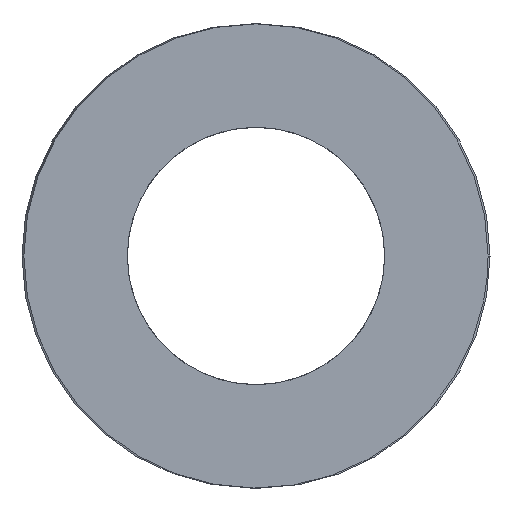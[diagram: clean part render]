
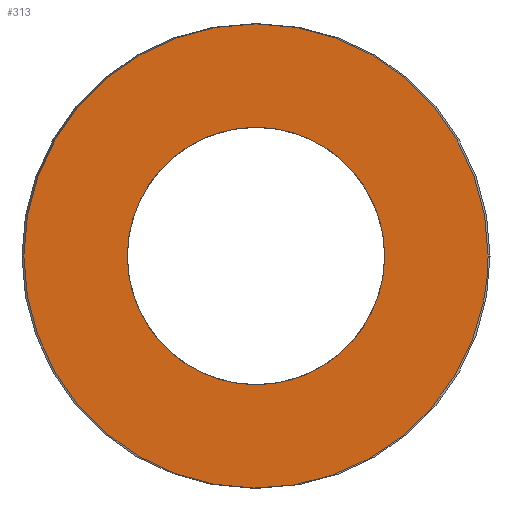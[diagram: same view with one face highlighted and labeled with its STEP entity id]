
A CAD part, left-side view. The second image highlights one B-rep face of the part: STEP entity #313.
In plain terms, the highlighted planar face has unit normal (-1, 0, 0).
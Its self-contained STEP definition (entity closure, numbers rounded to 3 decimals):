
#63=CARTESIAN_POINT('Vertex',(0.,9.2,0.)) ;
#89=CARTESIAN_POINT('Vertex',(0.,-9.2,0.)) ;
#93=CARTESIAN_POINT('Control Point',(0.,9.2,0.)) ;
#94=CARTESIAN_POINT('Control Point',(0.,9.2,-1.445)) ;
#95=CARTESIAN_POINT('Control Point',(0.,8.916,-2.89)) ;
#96=CARTESIAN_POINT('Control Point',(0.,8.348,-4.261)) ;
#97=CARTESIAN_POINT('Control Point',(0.,6.706,-6.706)) ;
#98=CARTESIAN_POINT('Control Point',(0.,4.261,-8.348)) ;
#99=CARTESIAN_POINT('Control Point',(0.,2.89,-8.916)) ;
#100=CARTESIAN_POINT('Control Point',(0.,0.,-9.484)) ;
#101=CARTESIAN_POINT('Control Point',(0.,-2.89,-8.916)) ;
#102=CARTESIAN_POINT('Control Point',(0.,-4.261,-8.348)) ;
#103=CARTESIAN_POINT('Control Point',(0.,-6.706,-6.706)) ;
#104=CARTESIAN_POINT('Control Point',(0.,-8.348,-4.261)) ;
#105=CARTESIAN_POINT('Control Point',(0.,-8.916,-2.89)) ;
#106=CARTESIAN_POINT('Control Point',(0.,-9.2,-1.445)) ;
#107=CARTESIAN_POINT('Control Point',(0.,-9.2,0.)) ;
#121=CARTESIAN_POINT('Axis2P3D Location',(0.,0.,0.)) ;
#250=CARTESIAN_POINT('Axis2P3D Location',(0.,4.6,0.)) ;
#260=CARTESIAN_POINT('Control Point',(0.,0.,-5.1)) ;
#261=CARTESIAN_POINT('Control Point',(0.,0.553,-5.1)) ;
#262=CARTESIAN_POINT('Control Point',(0.,1.106,-5.025)) ;
#263=CARTESIAN_POINT('Control Point',(0.,1.646,-4.875)) ;
#264=CARTESIAN_POINT('Control Point',(0.,2.671,-4.432)) ;
#265=CARTESIAN_POINT('Control Point',(0.,3.541,-3.733)) ;
#266=CARTESIAN_POINT('Control Point',(0.,3.926,-3.326)) ;
#267=CARTESIAN_POINT('Control Point',(0.,4.575,-2.418)) ;
#268=CARTESIAN_POINT('Control Point',(0.,4.96,-1.37)) ;
#269=CARTESIAN_POINT('Control Point',(0.,5.079,-0.822)) ;
#270=CARTESIAN_POINT('Control Point',(0.,5.167,0.291)) ;
#271=CARTESIAN_POINT('Control Point',(0.,4.955,1.387)) ;
#272=CARTESIAN_POINT('Control Point',(0.,4.775,1.917)) ;
#273=CARTESIAN_POINT('Control Point',(0.,4.275,2.916)) ;
#274=CARTESIAN_POINT('Control Point',(0.,3.528,3.745)) ;
#275=CARTESIAN_POINT('Control Point',(0.,3.1,4.106)) ;
#276=CARTESIAN_POINT('Control Point',(0.,2.255,4.642)) ;
#277=CARTESIAN_POINT('Control Point',(0.,1.309,4.959)) ;
#278=CARTESIAN_POINT('Control Point',(0.,0.877,5.053)) ;
#279=CARTESIAN_POINT('Control Point',(0.,0.439,5.1)) ;
#280=CARTESIAN_POINT('Control Point',(0.,0.,5.1)) ;
#281=CARTESIAN_POINT('Vertex',(0.,0.,-5.1)) ;
#283=CARTESIAN_POINT('Vertex',(0.,0.,5.1)) ;
#287=CARTESIAN_POINT('Control Point',(0.,0.,5.1)) ;
#288=CARTESIAN_POINT('Control Point',(0.,-0.553,5.1)) ;
#289=CARTESIAN_POINT('Control Point',(0.,-1.106,5.025)) ;
#290=CARTESIAN_POINT('Control Point',(0.,-1.646,4.875)) ;
#291=CARTESIAN_POINT('Control Point',(0.,-2.671,4.432)) ;
#292=CARTESIAN_POINT('Control Point',(0.,-3.541,3.733)) ;
#293=CARTESIAN_POINT('Control Point',(0.,-3.926,3.326)) ;
#294=CARTESIAN_POINT('Control Point',(0.,-4.575,2.418)) ;
#295=CARTESIAN_POINT('Control Point',(0.,-4.96,1.37)) ;
#296=CARTESIAN_POINT('Control Point',(0.,-5.079,0.822)) ;
#297=CARTESIAN_POINT('Control Point',(0.,-5.167,-0.291)) ;
#298=CARTESIAN_POINT('Control Point',(0.,-4.955,-1.387)) ;
#299=CARTESIAN_POINT('Control Point',(0.,-4.775,-1.917)) ;
#300=CARTESIAN_POINT('Control Point',(0.,-4.275,-2.916)) ;
#301=CARTESIAN_POINT('Control Point',(0.,-3.528,-3.745)) ;
#302=CARTESIAN_POINT('Control Point',(0.,-3.1,-4.106)) ;
#303=CARTESIAN_POINT('Control Point',(0.,-2.255,-4.642)) ;
#304=CARTESIAN_POINT('Control Point',(0.,-1.309,-4.959)) ;
#305=CARTESIAN_POINT('Control Point',(0.,-0.877,-5.053)) ;
#306=CARTESIAN_POINT('Control Point',(0.,-0.439,-5.1)) ;
#307=CARTESIAN_POINT('Control Point',(0.,0.,-5.1)) ;
#122=DIRECTION('Axis2P3D Direction',(1.,-0.,0.)) ;
#251=DIRECTION('Axis2P3D Direction',(-1.,0.,0.)) ;
#252=DIRECTION('Axis2P3D XDirection',(0.,1.,0.)) ;
#123=AXIS2_PLACEMENT_3D('Circle Axis2P3D',#121,#122,$) ;
#253=AXIS2_PLACEMENT_3D('Plane Axis2P3D',#250,#251,#252) ;
#256=ORIENTED_EDGE('',*,*,#108,.T.) ;
#257=ORIENTED_EDGE('',*,*,#125,.T.) ;
#310=ORIENTED_EDGE('',*,*,#285,.T.) ;
#311=ORIENTED_EDGE('',*,*,#308,.T.) ;
#312=FACE_BOUND('',#309,.T.) ;
#313=ADVANCED_FACE('392-B20-102',(#258,#312),#254,.T.) ;
#92=B_SPLINE_CURVE_WITH_KNOTS('',5,(#93,#94,#95,#96,#97,#98,#99,#100,#101,#102,#103,#104,#105,#106,#107),.UNSPECIFIED.,.F.,.U.,(6,3,3,3,6),(-14.451,-7.226,0.,7.226,14.451),.UNSPECIFIED.) ;
#259=B_SPLINE_CURVE_WITH_KNOTS('',5,(#260,#261,#262,#263,#264,#265,#266,#267,#268,#269,#270,#271,#272,#273,#274,#275,#276,#277,#278,#279,#280),.UNSPECIFIED.,.F.,.U.,(6,3,3,3,3,3,6),(0.,3.911,7.823,11.734,15.646,19.557,22.658),.UNSPECIFIED.) ;
#286=B_SPLINE_CURVE_WITH_KNOTS('',5,(#287,#288,#289,#290,#291,#292,#293,#294,#295,#296,#297,#298,#299,#300,#301,#302,#303,#304,#305,#306,#307),.UNSPECIFIED.,.F.,.U.,(6,3,3,3,3,3,6),(0.,3.911,7.823,11.734,15.646,19.557,22.658),.UNSPECIFIED.) ;
#124=CIRCLE('generated circle',#123,9.2) ;
#108=EDGE_CURVE('',#64,#90,#92,.T.) ;
#125=EDGE_CURVE('',#90,#64,#124,.F.) ;
#285=EDGE_CURVE('',#282,#284,#259,.T.) ;
#308=EDGE_CURVE('',#284,#282,#286,.T.) ;
#255=EDGE_LOOP('',(#256,#257)) ;
#309=EDGE_LOOP('',(#310,#311)) ;
#258=FACE_OUTER_BOUND('',#255,.T.) ;
#254=PLANE('Plane',#253) ;
#64=VERTEX_POINT('',#63) ;
#90=VERTEX_POINT('',#89) ;
#282=VERTEX_POINT('',#281) ;
#284=VERTEX_POINT('',#283) ;
